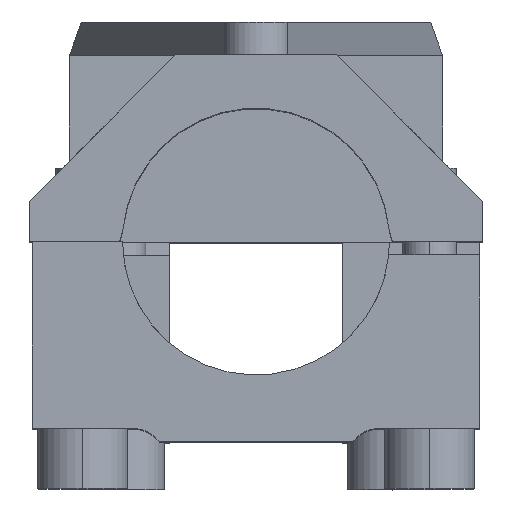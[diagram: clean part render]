
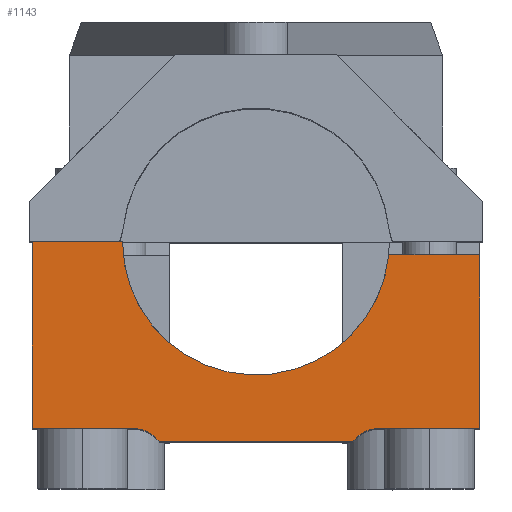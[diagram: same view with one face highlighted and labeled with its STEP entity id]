
A CAD part, top view. The second image highlights one B-rep face of the part: STEP entity #1143.
In plain terms, the highlighted planar face has unit normal (0, 0, 1).
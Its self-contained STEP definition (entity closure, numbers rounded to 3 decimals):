
#1143=ADVANCED_FACE('Solid.392',(#2674),#2675,.T.);
#2674=FACE_OUTER_BOUND('',#4638,.T.);
#2675=PLANE('',#4639);
#4638=EDGE_LOOP('',(#7826,#7827,#7828,#7829,#7830,#7831,#7832,#7833,#7834,#7835));
#4639=AXIS2_PLACEMENT_3D('',#7836,#7837,#7838);
#7826=ORIENTED_EDGE('',*,*,#12418,.T.);
#7827=ORIENTED_EDGE('',*,*,#12401,.T.);
#7828=ORIENTED_EDGE('',*,*,#12419,.T.);
#7829=ORIENTED_EDGE('',*,*,#12406,.T.);
#7830=ORIENTED_EDGE('',*,*,#12420,.T.);
#7831=ORIENTED_EDGE('',*,*,#12411,.T.);
#7832=ORIENTED_EDGE('',*,*,#12421,.T.);
#7833=ORIENTED_EDGE('',*,*,#12416,.T.);
#7834=ORIENTED_EDGE('',*,*,#12422,.T.);
#7835=ORIENTED_EDGE('',*,*,#12423,.T.);
#7836=CARTESIAN_POINT('',(0.,0.,27.5));
#7837=DIRECTION('',(0.,0.,1.0));
#7838=DIRECTION('',(-1.0,0.,0.));
#12401=EDGE_CURVE('',#15072,#15077,#15079,.T.);
#12406=EDGE_CURVE('',#15081,#15086,#15088,.F.);
#12411=EDGE_CURVE('',#15090,#15095,#15097,.F.);
#12416=EDGE_CURVE('',#15099,#15104,#15106,.T.);
#12418=EDGE_CURVE('',#15108,#15072,#15109,.T.);
#12419=EDGE_CURVE('',#15077,#15081,#15110,.T.);
#12420=EDGE_CURVE('',#15086,#15090,#15111,.T.);
#12421=EDGE_CURVE('',#15095,#15099,#15112,.T.);
#12422=EDGE_CURVE('',#15104,#15113,#15114,.T.);
#12423=EDGE_CURVE('',#15113,#15108,#15115,.F.);
#15072=VERTEX_POINT('',#22587);
#15077=VERTEX_POINT('',#22594);
#15079=LINE('',#22597,#22598);
#15081=VERTEX_POINT('',#22600);
#15086=VERTEX_POINT('',#22606);
#15088=CIRCLE('',#22609,5.0);
#15090=VERTEX_POINT('',#22611);
#15095=VERTEX_POINT('',#22617);
#15097=CIRCLE('',#22620,5.0);
#15099=VERTEX_POINT('',#22622);
#15104=VERTEX_POINT('',#22629);
#15106=LINE('',#22632,#22633);
#15108=VERTEX_POINT('',#22635);
#15109=LINE('',#22636,#22637);
#15110=LINE('',#22638,#22639);
#15111=LINE('',#22640,#22641);
#15112=LINE('',#22642,#22643);
#15113=VERTEX_POINT('',#22644);
#15114=LINE('',#22645,#22646);
#15115=CIRCLE('',#22647,20.0);
#22587=CARTESIAN_POINT('',(-33.5,0.,27.5));
#22594=CARTESIAN_POINT('',(-33.5,-28.,27.5));
#22597=CARTESIAN_POINT('',(-33.5,-14.,27.5));
#22598=VECTOR('',#26648,1.0);
#22600=CARTESIAN_POINT('',(-18.5,-28.,27.5));
#22606=CARTESIAN_POINT('',(-14.5,-30.,27.5));
#22609=AXIS2_PLACEMENT_3D('',#26654,#26655,#26656);
#22611=CARTESIAN_POINT('',(14.5,-30.,27.5));
#22617=CARTESIAN_POINT('',(18.5,-28.,27.5));
#22620=AXIS2_PLACEMENT_3D('',#26662,#26663,#26664);
#22622=CARTESIAN_POINT('',(33.5,-28.,27.5));
#22629=CARTESIAN_POINT('',(33.5,-2.,27.5));
#22632=CARTESIAN_POINT('',(33.5,-15.,27.5));
#22633=VECTOR('',#26668,1.0);
#22635=CARTESIAN_POINT('',(-20.,0.,27.5));
#22636=CARTESIAN_POINT('',(-26.75,0.,27.5));
#22637=VECTOR('',#26669,1.0);
#22638=CARTESIAN_POINT('',(-26.,-28.,27.5));
#22639=VECTOR('',#26670,1.0);
#22640=CARTESIAN_POINT('',(0.,-30.,27.5));
#22641=VECTOR('',#26671,1.0);
#22642=CARTESIAN_POINT('',(26.,-28.,27.5));
#22643=VECTOR('',#26672,1.0);
#22644=CARTESIAN_POINT('',(19.9,-2.,27.5));
#22645=CARTESIAN_POINT('',(26.7,-2.,27.5));
#22646=VECTOR('',#26673,1.0);
#22647=AXIS2_PLACEMENT_3D('',#26674,#26675,#26676);
#26648=DIRECTION('',(0.0,-1.0,0.));
#26654=CARTESIAN_POINT('',(-18.5,-33.,27.5));
#26655=DIRECTION('',(0.,0.,1.0));
#26656=DIRECTION('',(-1.0,0.,0.));
#26662=CARTESIAN_POINT('',(18.5,-33.,27.5));
#26663=DIRECTION('',(0.,0.,1.0));
#26664=DIRECTION('',(-1.0,0.,0.));
#26668=DIRECTION('',(0.0,1.0,0.));
#26669=DIRECTION('',(-1.0,0.,0.));
#26670=DIRECTION('',(1.0,0.0,0.));
#26671=DIRECTION('',(1.0,0.0,0.));
#26672=DIRECTION('',(1.0,0.0,0.));
#26673=DIRECTION('',(-1.0,0.,0.));
#26674=CARTESIAN_POINT('',(0.,0.,27.5));
#26675=DIRECTION('',(0.,0.,1.0));
#26676=DIRECTION('',(-1.0,0.,0.));
